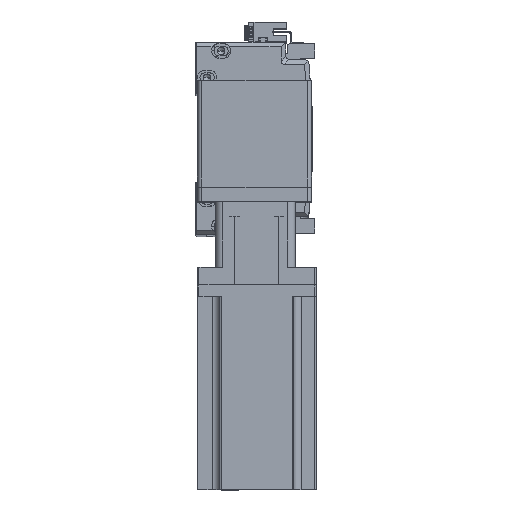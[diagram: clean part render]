
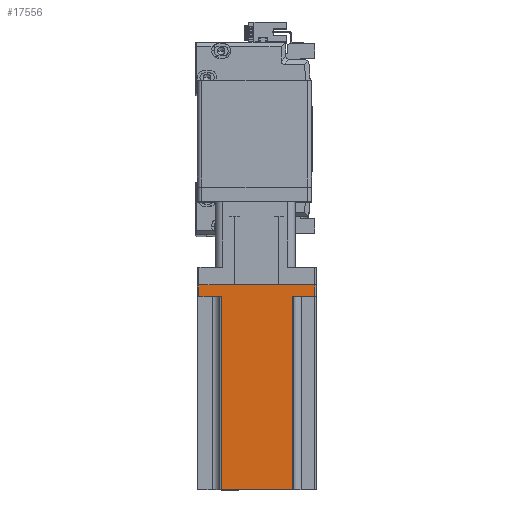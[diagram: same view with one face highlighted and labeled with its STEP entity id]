
A CAD part, top view. The second image highlights one B-rep face of the part: STEP entity #17556.
In plain terms, the highlighted planar face has unit normal (0, 0, 1) as drawn and (0, 1, 0) by its records, which use the part's own axes.
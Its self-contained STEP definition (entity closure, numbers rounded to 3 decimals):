
#380 = VECTOR ( 'NONE', #23125, 1000. ) ;
#1043 = EDGE_CURVE ( 'NONE', #8231, #11773, #28619, .T. ) ;
#1278 = CARTESIAN_POINT ( 'NONE',  ( -24., 40., 138.3 ) ) ;
#1592 = CARTESIAN_POINT ( 'NONE',  ( -39., 40., 0. ) ) ;
#1597 = CARTESIAN_POINT ( 'NONE',  ( -24., 40., 138.3 ) ) ;
#2075 = VERTEX_POINT ( 'NONE', #5040 ) ;
#2136 = VERTEX_POINT ( 'NONE', #40377 ) ;
#3170 = DIRECTION ( 'NONE',  ( 1., 0., 0. ) ) ;
#3731 = ORIENTED_EDGE ( 'NONE', *, *, #8335, .T. ) ;
#4935 = DIRECTION ( 'NONE',  ( -1., 0., 0. ) ) ;
#5040 = CARTESIAN_POINT ( 'NONE',  ( 39., 40., 8. ) ) ;
#5680 = CARTESIAN_POINT ( 'NONE',  ( 39., 40., 0. ) ) ;
#6914 = CARTESIAN_POINT ( 'NONE',  ( -24., 40., 8. ) ) ;
#8231 = VERTEX_POINT ( 'NONE', #27803 ) ;
#8335 = EDGE_CURVE ( 'NONE', #26830, #35232, #17773, .T. ) ;
#10653 = ORIENTED_EDGE ( 'NONE', *, *, #41339, .F. ) ;
#10944 = CARTESIAN_POINT ( 'NONE',  ( -25., 40., 8. ) ) ;
#11773 = VERTEX_POINT ( 'NONE', #6914 ) ;
#13947 = CARTESIAN_POINT ( 'NONE',  ( 40., 40., 138.3 ) ) ;
#15729 = CARTESIAN_POINT ( 'NONE',  ( 25., 40., 8. ) ) ;
#15846 = EDGE_CURVE ( 'NONE', #11773, #46476, #18935, .T. ) ;
#15920 = CARTESIAN_POINT ( 'NONE',  ( -39., 40., 138.3 ) ) ;
#16489 = FACE_OUTER_BOUND ( 'NONE', #46262, .T. ) ;
#17556 = ADVANCED_FACE ( 'NONE', ( #16489 ), #46257, .F. ) ;
#17773 = LINE ( 'NONE', #28412, #44406 ) ;
#18935 = LINE ( 'NONE', #1597, #27475 ) ;
#20102 = VERTEX_POINT ( 'NONE', #40065 ) ;
#20114 = VECTOR ( 'NONE', #32597, 1000. ) ;
#20686 = VECTOR ( 'NONE', #26800, 1000. ) ;
#20868 = ORIENTED_EDGE ( 'NONE', *, *, #38447, .F. ) ;
#21586 = ORIENTED_EDGE ( 'NONE', *, *, #40585, .T. ) ;
#22428 = LINE ( 'NONE', #13947, #40628 ) ;
#23125 = DIRECTION ( 'NONE',  ( 0., 0., -1. ) ) ;
#24796 = DIRECTION ( 'NONE',  ( 0., -1., 0. ) ) ;
#24890 = DIRECTION ( 'NONE',  ( -1., 0., 0. ) ) ;
#25128 = ORIENTED_EDGE ( 'NONE', *, *, #32442, .T. ) ;
#26800 = DIRECTION ( 'NONE',  ( 0., 0., 1. ) ) ;
#26830 = VERTEX_POINT ( 'NONE', #5680 ) ;
#26914 = DIRECTION ( 'NONE',  ( 0., 0., 1. ) ) ;
#27475 = VECTOR ( 'NONE', #26914, 1000. ) ;
#27631 = CARTESIAN_POINT ( 'NONE',  ( 24., 40., 138.3 ) ) ;
#27803 = CARTESIAN_POINT ( 'NONE',  ( -39., 40., 8. ) ) ;
#28156 = LINE ( 'NONE', #44910, #380 ) ;
#28412 = CARTESIAN_POINT ( 'NONE',  ( 40., 40., 0. ) ) ;
#28619 = LINE ( 'NONE', #10944, #20114 ) ;
#28877 = VECTOR ( 'NONE', #42168, 1000. ) ;
#30123 = VECTOR ( 'NONE', #4935, 1000. ) ;
#30322 = LINE ( 'NONE', #15920, #20686 ) ;
#30846 = ORIENTED_EDGE ( 'NONE', *, *, #15846, .T. ) ;
#31952 = DIRECTION ( 'NONE',  ( -1., 0., 0. ) ) ;
#32442 = EDGE_CURVE ( 'NONE', #2136, #20102, #38524, .T. ) ;
#32597 = DIRECTION ( 'NONE',  ( 1., 0., 0. ) ) ;
#33171 = ORIENTED_EDGE ( 'NONE', *, *, #1043, .T. ) ;
#34764 = EDGE_CURVE ( 'NONE', #35232, #8231, #30322, .T. ) ;
#35232 = VERTEX_POINT ( 'NONE', #1592 ) ;
#38447 = EDGE_CURVE ( 'NONE', #2075, #20102, #39777, .T. ) ;
#38524 = LINE ( 'NONE', #27631, #28877 ) ;
#39777 = LINE ( 'NONE', #15729, #30123 ) ;
#40065 = CARTESIAN_POINT ( 'NONE',  ( 24., 40., 8. ) ) ;
#40377 = CARTESIAN_POINT ( 'NONE',  ( 24., 40., 138.3 ) ) ;
#40585 = EDGE_CURVE ( 'NONE', #2075, #26830, #28156, .T. ) ;
#40628 = VECTOR ( 'NONE', #31952, 1000. ) ;
#41339 = EDGE_CURVE ( 'NONE', #2136, #46476, #22428, .T. ) ;
#42168 = DIRECTION ( 'NONE',  ( 0., 0., -1. ) ) ;
#42347 = AXIS2_PLACEMENT_3D ( 'NONE', #46566, #24796, #3170 ) ;
#44406 = VECTOR ( 'NONE', #24890, 1000. ) ;
#44910 = CARTESIAN_POINT ( 'NONE',  ( 39., 40., 138.3 ) ) ;
#46257 = PLANE ( 'NONE',  #42347 ) ;
#46262 = EDGE_LOOP ( 'NONE', ( #33171, #30846, #10653, #25128, #20868, #21586, #3731, #46759 ) ) ;
#46476 = VERTEX_POINT ( 'NONE', #1278 ) ;
#46566 = CARTESIAN_POINT ( 'NONE',  ( 40., 40., 138.3 ) ) ;
#46759 = ORIENTED_EDGE ( 'NONE', *, *, #34764, .T. ) ;
